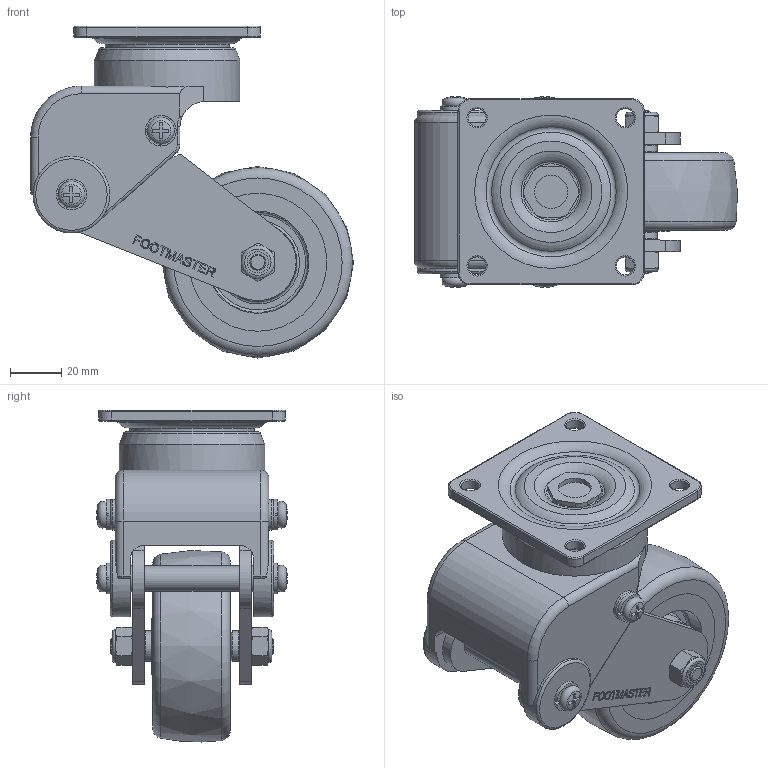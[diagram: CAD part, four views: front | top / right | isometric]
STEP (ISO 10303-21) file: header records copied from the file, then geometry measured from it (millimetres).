
FILE_DESCRIPTION(/* description */ (''),/* implementation_level */ '2;1');
FILE_NAME(/* name */ 'D:/GDS-75-ASF-LUD v11.step',/* time_stamp */ '2019-04-16T11:51:14+09:00',/* author */ ('hoya0806@gdok.co.kr'),/* organization */ (''),/* preprocessor_version */ 'ST-DEVELOPER v18',/* originating_system */ 'Autodesk Translation Framework v8.2.0.1029',/* authorisation */ '');
FILE_SCHEMA (('AUTOMOTIVE_DESIGN { 1 0 10303 214 3 1 1 }'));
Length unit declared in the file: millimetre
Products named in the file (12): GDS-75-ASF-LUD; S10020; Wheel; Component5; Component6; Leg; Inner Washer; 95003A102; Nylon Nut M8 v1; 94645A210; Nylon Nut M8 v1 (1); 94645A210 (1)
Assembly tree (13 placements, depth 3):
  GDS-75-ASF-LUD
    S10020
    Leg  x2
    Inner Washer  x2
    Wheel
      Component5
      Component6
    95003A102
    Nylon Nut M8 v1
      94645A210
    Nylon Nut M8 v1 (1)
      94645A210 (1)
Bounding box: 126.44 x 74.74 x 129.99 mm (x, y, z)
Volume: 284566.8 mm3; surface area: 85999 mm2
Topology: 13 solids, 15 shells, 788 faces, 2089 edges, 1376 vertices
Faces by surface type: plane 367, bspline 195, cylinder 128, torus 53, cone 45
Full cylindrical faces by diameter (mm): 6 x6, 6.376 x12, 6.684 x2, 7 x4, 8 x8, 8.2 x2, 8.355 x2, 10 x1, 10.1 x2, 10.2 x2, 12 x4, 13 x1, 22 x2, 30 x2, 48.676 x1, 54 x2, 57 x1
Entity records: 24027 total; most frequent: CARTESIAN_POINT 10145, ORIENTED_EDGE 2996, DIRECTION 2582, EDGE_CURVE 1498, VERTEX_POINT 984, AXIS2_PLACEMENT_3D 939, LINE 704, VECTOR 704
